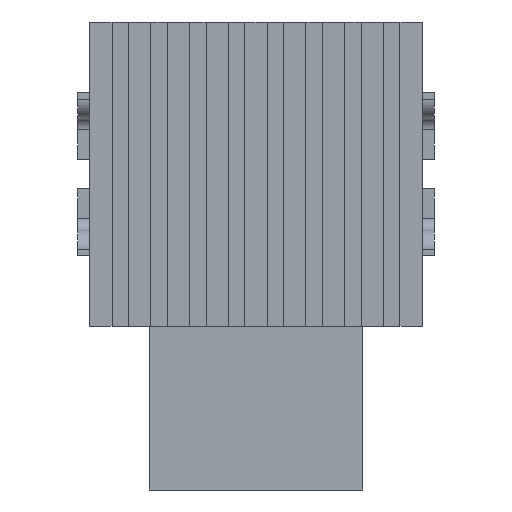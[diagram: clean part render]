
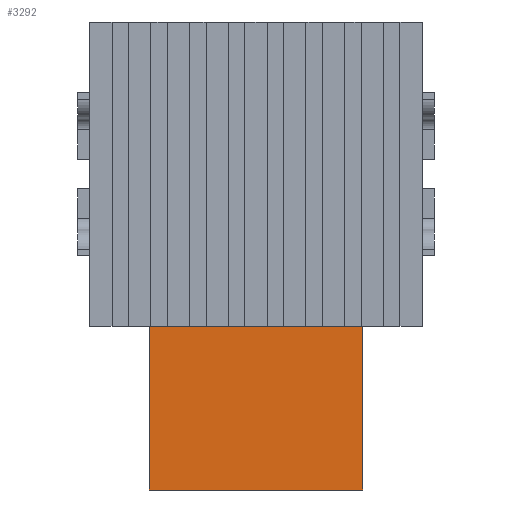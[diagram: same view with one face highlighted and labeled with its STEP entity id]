
A CAD part, front view. The second image highlights one B-rep face of the part: STEP entity #3292.
In plain terms, the highlighted planar face has unit normal (0, -1, 0).
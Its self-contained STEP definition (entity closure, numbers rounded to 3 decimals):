
#944=ORIENTED_EDGE('',*,*,#1463,.F.);
#945=ORIENTED_EDGE('',*,*,#1464,.F.);
#946=ORIENTED_EDGE('',*,*,#1457,.T.);
#947=ORIENTED_EDGE('',*,*,#1461,.T.);
#1457=EDGE_CURVE('',#1782,#1780,#2209,.T.);
#1461=EDGE_CURVE('',#1780,#1784,#2213,.T.);
#1463=EDGE_CURVE('',#1786,#1784,#2215,.T.);
#1464=EDGE_CURVE('',#1782,#1786,#2216,.T.);
#1780=VERTEX_POINT('',#5233);
#1782=VERTEX_POINT('',#5236);
#1784=VERTEX_POINT('',#5242);
#1786=VERTEX_POINT('',#5248);
#2209=LINE('',#5235,#2649);
#2213=LINE('',#5244,#2653);
#2215=LINE('',#5247,#2655);
#2216=LINE('',#5249,#2656);
#2649=VECTOR('',#4279,1000.);
#2653=VECTOR('',#4285,1000.);
#2655=VECTOR('',#4289,1000.);
#2656=VECTOR('',#4290,1000.);
#2818=EDGE_LOOP('',(#944,#945,#946,#947));
#2984=FACE_BOUND('',#2818,.T.);
#3131=PLANE('',#3493);
#3292=ADVANCED_FACE('',(#2984),#3131,.T.);
#3493=AXIS2_PLACEMENT_3D('',#5246,#4287,#4288);
#4279=DIRECTION('',(-1.,0.,0.));
#4285=DIRECTION('',(0.,0.,-1.));
#4287=DIRECTION('',(0.,-1.,0.));
#4288=DIRECTION('',(0.,0.,-1.));
#4289=DIRECTION('',(-1.,0.,0.));
#4290=DIRECTION('',(0.,0.,-1.));
#5233=CARTESIAN_POINT('',(-22.86,-12.7,35.052));
#5235=CARTESIAN_POINT('',(22.86,-12.7,35.052));
#5236=CARTESIAN_POINT('',(22.86,-12.7,35.052));
#5242=CARTESIAN_POINT('',(-22.86,-12.7,0.));
#5244=CARTESIAN_POINT('',(-22.86,-12.7,35.052));
#5246=CARTESIAN_POINT('',(22.86,-12.7,35.052));
#5247=CARTESIAN_POINT('',(22.86,-12.7,0.));
#5248=CARTESIAN_POINT('',(22.86,-12.7,0.));
#5249=CARTESIAN_POINT('',(22.86,-12.7,35.052));
